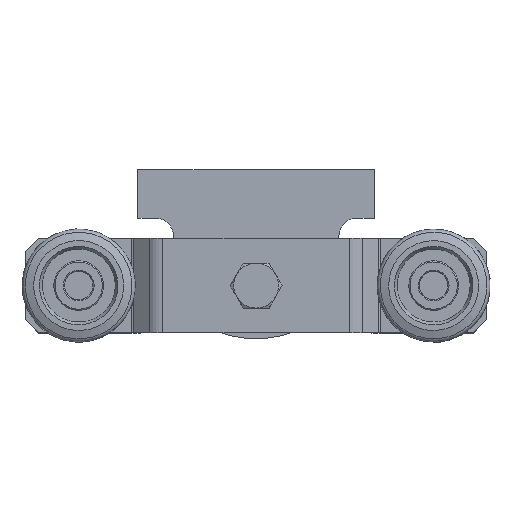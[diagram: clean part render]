
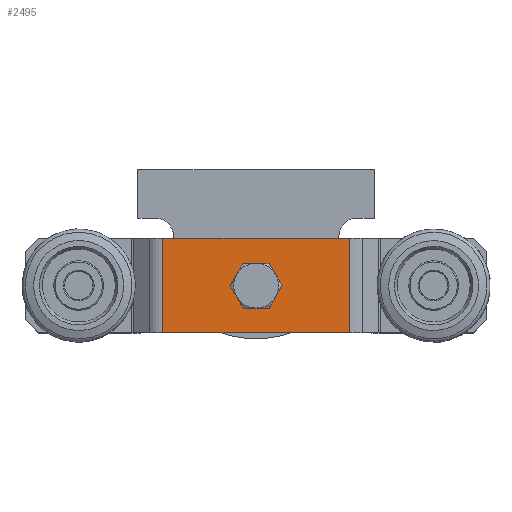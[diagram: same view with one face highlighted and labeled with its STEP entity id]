
A CAD part, top view. The second image highlights one B-rep face of the part: STEP entity #2495.
In plain terms, the highlighted planar face has unit normal (0, 0, 1).
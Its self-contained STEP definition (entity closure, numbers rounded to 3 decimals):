
#189=PLANE('',#2683);
#307=LINE('',#3792,#499);
#313=LINE('',#3806,#505);
#314=LINE('',#3808,#506);
#315=LINE('',#3809,#507);
#499=VECTOR('',#3026,40.);
#505=VECTOR('',#3040,79.);
#506=VECTOR('',#3041,40.);
#507=VECTOR('',#3042,79.);
#666=FACE_BOUND('',#900,.T.);
#730=FACE_OUTER_BOUND('',#899,.T.);
#899=EDGE_LOOP('',(#1851,#1852,#1853,#1854));
#900=EDGE_LOOP('',(#1855));
#1105=CIRCLE('',#2684,6.05);
#1222=VERTEX_POINT('',#3774);
#1225=VERTEX_POINT('',#3782);
#1232=VERTEX_POINT('',#3805);
#1233=VERTEX_POINT('',#3807);
#1234=VERTEX_POINT('',#3810);
#1467=EDGE_CURVE('',#1225,#1222,#307,.T.);
#1474=EDGE_CURVE('',#1232,#1222,#313,.T.);
#1475=EDGE_CURVE('',#1232,#1233,#314,.T.);
#1476=EDGE_CURVE('',#1225,#1233,#315,.T.);
#1477=EDGE_CURVE('',#1234,#1234,#1105,.T.);
#1851=ORIENTED_EDGE('',*,*,#1467,.T.);
#1852=ORIENTED_EDGE('',*,*,#1474,.F.);
#1853=ORIENTED_EDGE('',*,*,#1475,.T.);
#1854=ORIENTED_EDGE('',*,*,#1476,.F.);
#1855=ORIENTED_EDGE('',*,*,#1477,.T.);
#2495=ADVANCED_FACE('',(#730,#666),#189,.T.);
#2683=AXIS2_PLACEMENT_3D('',#3804,#3038,#3039);
#2684=AXIS2_PLACEMENT_3D('',#3811,#3043,#3044);
#3026=DIRECTION('',(0.,1.,0.));
#3038=DIRECTION('center_axis',(0.,0.,1.));
#3039=DIRECTION('ref_axis',(1.,0.,0.));
#3040=DIRECTION('',(1.,0.,0.));
#3041=DIRECTION('',(0.,-1.,0.));
#3042=DIRECTION('',(-1.,0.,0.));
#3043=DIRECTION('center_axis',(0.,0.,-1.));
#3044=DIRECTION('ref_axis',(-1.,0.,0.));
#3774=CARTESIAN_POINT('',(39.5,20.,8.));
#3782=CARTESIAN_POINT('',(39.5,-20.,8.));
#3792=CARTESIAN_POINT('',(39.5,-10.,8.));
#3804=CARTESIAN_POINT('Origin',(0.,0.,
8.));
#3805=CARTESIAN_POINT('',(-39.5,20.,8.));
#3806=CARTESIAN_POINT('',(93.3,20.,8.));
#3807=CARTESIAN_POINT('',(-39.5,-20.,8.));
#3808=CARTESIAN_POINT('',(-39.5,10.,8.));
#3809=CARTESIAN_POINT('',(-93.3,-20.,8.));
#3810=CARTESIAN_POINT('',(6.05,0.,8.));
#3811=CARTESIAN_POINT('Origin',(0.,0.,8.));
